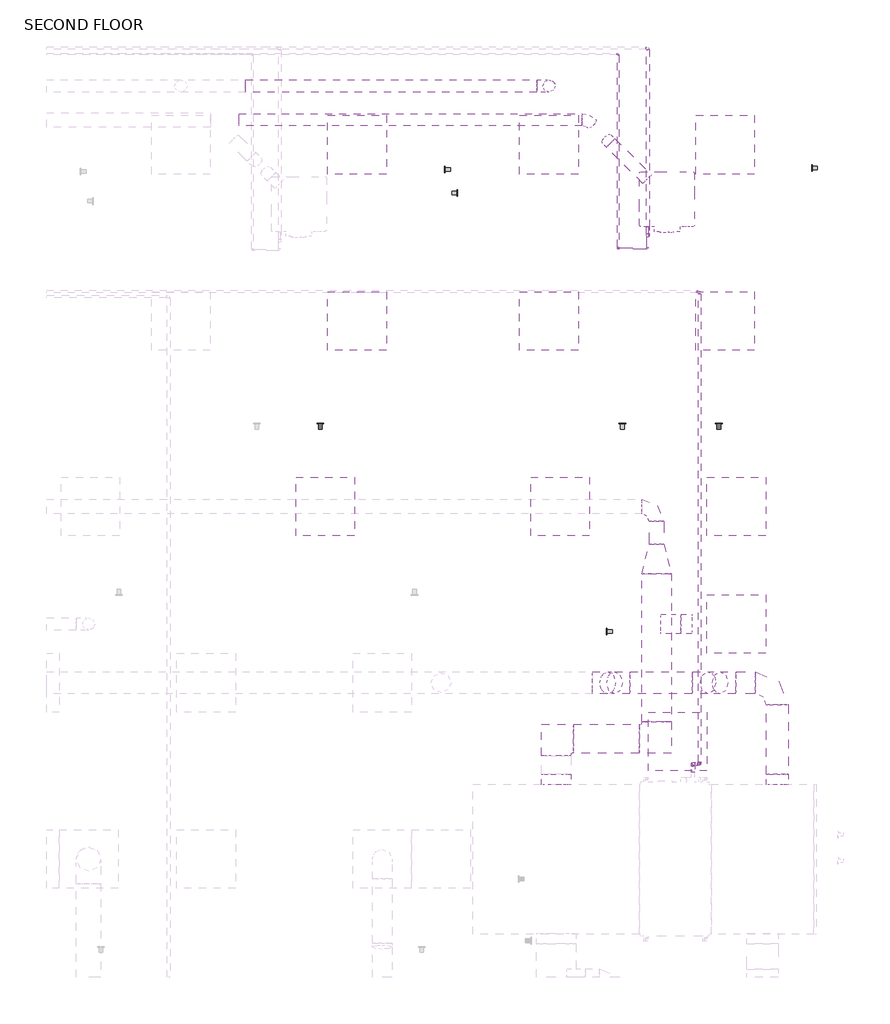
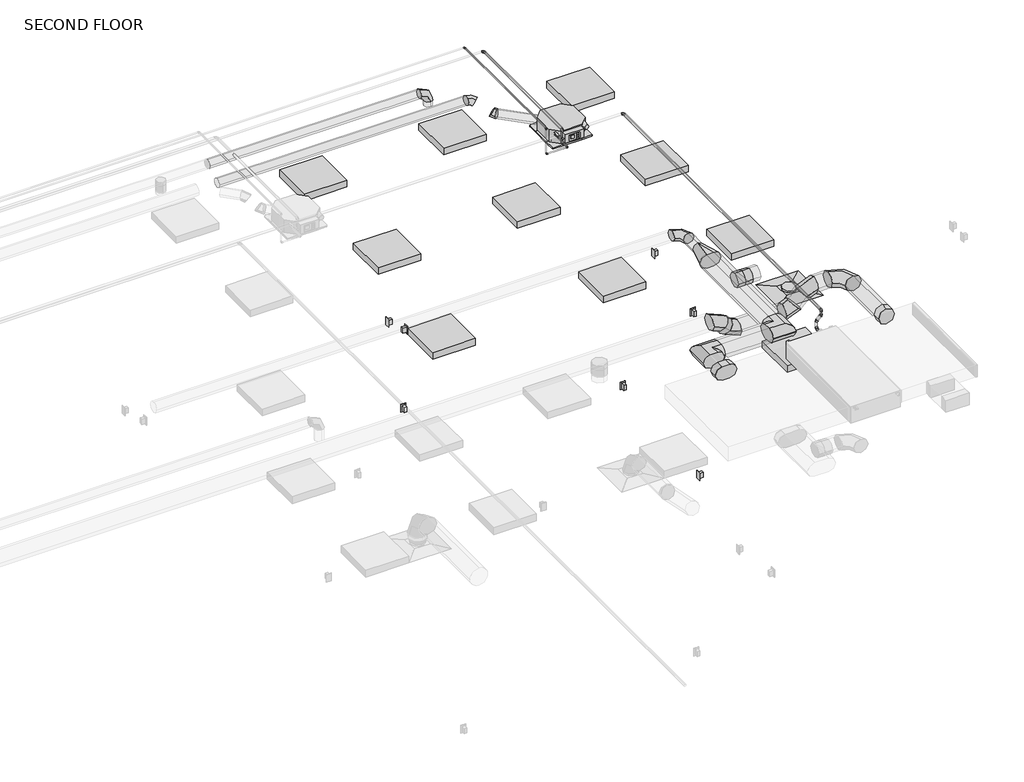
# One storey, part 12 of 12: 15 duct fittings, 13 duct segments, 13 pipe fittings, 11 pipe segments, 10 light fixtures, 6 proxies, 2 switching devices, 1 air terminal.
"""IFC4 building model written with IfcOpenShell, lengths in millimetres."""

from ifc_helpers import new_model, si_unit, point, frame, frame_2d, origin, place, context, project, spatial, polyline, circle_curve, trimmed, segment, composite_curve, outline, extrude, transform, mapped, element, save
from components import air_terminal_e9020785, mechanical_equipment_2d84379e, duplex_receptacle_countertop_10251bba, oval_elbow_mitered_standard_b72006ba, oval_tap_straight_standard_1d19fd39, oval_to_round_transition_length_standard_34fdf921, round_elbow_1_d_df495868, round_elbow_1_d_b37ad80b, round_elbow_1_d_c80420c1, round_elbow_1_d_2e2412f0, round_elbow_1_d_fb0a9a06, round_elbow_1_d_45990e82, round_takeoff_standard_affb11f8, round_takeoff_standard_bde3aeed, troffer_corner_insert_2x2_3lamp_e67c7f8f, elbow_generic_standard_1964ee4a, elbow_generic_standard_a6ae4ebe, elbow_generic_standard_39713109, elbow_generic_standard_c06ac706, elbow_generic_standard_a088f956, transition_generic_standard_64286003

model = new_model("IFC4")

# Units and contexts
model_context = context("Model", 3, world=origin())
ifc_project = project(units=[si_unit("LENGTHUNIT", "METRE", prefix="MILLI")], contexts=[model_context])

# Site, building, storey
site = spatial("IfcSite", under=ifc_project)
building = spatial("IfcBuilding", under=site)
storey = spatial("IfcBuildingStorey", under=building, Name="SECOND FLOOR", Elevation=34544.0)

# Air terminal
placement = place(None, origin())
air_terminal_shape = air_terminal_e9020785(model_context)
element("IfcAirTerminal", 1, ObjectType="Supply Diffuser - Rectangular Face Round Neck - Hosted : 24\"x24\" Face 8\" Neck - Hosted", at=placement, inside=storey, context=model_context, shape_type="MappedRepresentation", body=[
    mapped(air_terminal_shape, transform((12392.9795393, 1686.9195005, 37287.2), x_axis=(-1.0, 0.0, 0.0), y_axis=(0.0, 1.0, 0.0), z_axis=(0.0, 0.0, -1.0))),
])

# Proxies
mechanical_equipment_shape = mechanical_equipment_2d84379e(model_context)
element("IfcBuildingElementProxy", 2, Name="PLFY-P-NCMU-E_4-way_24x24 : PLFY-P12NCMU-E", ObjectType="PLFY-P-NCMU-E_4-way_24x24 : PLFY-P12NCMU-E", at=placement, inside=storey, context=model_context, shape_type="MappedRepresentation", body=[
    mapped(mechanical_equipment_shape, transform((11673.0482893, 6163.5961456, 37287.2), x_axis=(-1.0, 0.0, 0.0), y_axis=(0.0, 1.0, 0.0), z_axis=(0.0, 0.0, -1.0))),
])
duplex_receptacle_countertop_shape = duplex_receptacle_countertop_10251bba(model_context)
element("IfcBuildingElementProxy", 3, Name="Duplex Receptacle : Standard", ObjectType="Duplex Receptacle : Standard", at=placement, inside=storey, context=model_context, shape_type="MappedRepresentation", body=[
    mapped(duplex_receptacle_countertop_shape, transform((9370.3795393, 6403.4699415, 35001.2), x_axis=(0.0, -1.0, 0.0), y_axis=(0.0, 0.0, 1.0), z_axis=(-1.0, 0.0, 0.0))),
])
element("IfcBuildingElementProxy", 4, Name="Duplex Receptacle : Standard", ObjectType="Duplex Receptacle : Standard", at=placement, inside=storey, context=model_context, shape_type="MappedRepresentation", body=[
    mapped(duplex_receptacle_countertop_shape, transform((9494.2045393, 6160.5030669, 35001.2), x_axis=(0.0, 1.0, 0.0), y_axis=(0.0, 0.0, 1.0), z_axis=(1.0, 0.0, 0.0))),
])
element("IfcBuildingElementProxy", 5, Name="Duplex Receptacle : Standard", ObjectType="Duplex Receptacle : Standard", at=placement, inside=storey, context=model_context, shape_type="MappedRepresentation", body=[
    mapped(duplex_receptacle_countertop_shape, transform((13180.3795393, 6418.1544492, 34696.4), x_axis=(0.0, -1.0, 0.0), y_axis=(0.0, 0.0, 1.0), z_axis=(-1.0, 0.0, 0.0))),
])
element("IfcBuildingElementProxy", 6, Name="Duplex Receptacle : Standard", ObjectType="Duplex Receptacle : Standard", at=placement, inside=storey, context=model_context, shape_type="MappedRepresentation", body=[
    mapped(duplex_receptacle_countertop_shape, transform((11210.5552749, 3763.3695005, 35001.2), x_axis=(-1.0, 0.0, 0.0), y_axis=(0.0, 0.0, 1.0), z_axis=(0.0, 1.0, 0.0))),
])
element("IfcBuildingElementProxy", 7, Name="Duplex Receptacle : Standard", ObjectType="Duplex Receptacle : Standard", at=placement, inside=storey, context=model_context, shape_type="MappedRepresentation", body=[
    mapped(duplex_receptacle_countertop_shape, transform((11049.9545393, 1610.8311967, 35001.2), x_axis=(0.0, -1.0, 0.0), y_axis=(0.0, 0.0, 1.0), z_axis=(-1.0, 0.0, 0.0))),
])

# Duct fittings
oval_elbow_mitered_standard_shape = oval_elbow_mitered_standard_b72006ba(model_context)
element("IfcDuctFitting", 8, ObjectType="Oval Elbow - Mitered : Standard", at=placement, inside=storey, context=model_context, shape_type="MappedRepresentation", body=[
    mapped(oval_elbow_mitered_standard_shape, transform((10522.5076643, 496.5607041, 37712.65), x_axis=(-1.0, 0.0, 0.0), y_axis=(0.0, -1.0, 0.0), z_axis=(0.0, 0.0, 1.0))),
])
element("IfcDuctFitting", 9, ObjectType="Oval Elbow - Mitered : Standard", at=placement, inside=storey, context=model_context, shape_type="MappedRepresentation", body=[
    mapped(oval_elbow_mitered_standard_shape, transform((11563.9076643, 496.5607041, 37712.65), x_axis=(1.0, 0.0, 0.0), y_axis=(0.0, 1.0, 0.0), z_axis=(0.0, 0.0, 1.0))),
])
oval_tap_straight_standard_shape = oval_tap_straight_standard_1d19fd39(model_context)
element("IfcDuctFitting", 10, ObjectType="Oval Tap - Straight : Standard", at=placement, inside=storey, context=model_context, shape_type="MappedRepresentation", body=[
    mapped(oval_tap_straight_standard_shape, transform((10522.5076643, 26.3945005, 37712.65), x_axis=(0.0, 1.0, 0.0), y_axis=(1.0, 0.0, 0.0), z_axis=(0.0, 0.0, -1.0))),
])
oval_to_round_transition_length_standard_shape = oval_to_round_transition_length_standard_34fdf921(model_context)
element("IfcDuctFitting", 11, ObjectType="Oval to Round Transition - Length : Standard", at=placement, inside=storey, context=model_context, shape_type="MappedRepresentation", body=[
    mapped(oval_to_round_transition_length_standard_shape, transform((11563.9076643, 2210.7945005, 37712.65), x_axis=(0.0, 1.0, 0.0), y_axis=(-1.0, 0.0, 0.0), z_axis=(0.0, 0.0, 1.0))),
])
round_elbow_1_d_shape = round_elbow_1_d_df495868(model_context)
element("IfcDuctFitting", 12, ObjectType="Round Elbow : 1 D", at=placement, inside=storey, context=model_context, shape_type="MappedRepresentation", body=[
    mapped(round_elbow_1_d_shape, transform((12818.4295393, 1077.3195005, 37751.54375), x_axis=(0.0, 1.0, 0.0), y_axis=(-1.0, 0.0, 0.0), z_axis=(0.0, 0.0, 1.0))),
])
round_elbow_1_d_2_shape = round_elbow_1_d_b37ad80b(model_context)
element("IfcDuctFitting", 13, ObjectType="Round Elbow : 1 D", at=placement, inside=storey, context=model_context, shape_type="MappedRepresentation", body=[
    mapped(round_elbow_1_d_2_shape, transform((11563.9076643, 2906.1195005, 37712.65), x_axis=(0.0, 1.0, 0.0), y_axis=(-1.0, 0.0, 0.0), z_axis=(0.0, 0.0, 1.0))),
])
round_elbow_1_d_3_shape = round_elbow_1_d_c80420c1(model_context)
element("IfcDuctFitting", 14, ObjectType="Round Elbow : 1 D", at=placement, inside=storey, context=model_context, shape_type="MappedRepresentation", body=[
    mapped(round_elbow_1_d_3_shape, transform((10448.2920393, 7268.5695005, 37592.0), x_axis=(0.0, 0.0, 1.0), y_axis=(-1.0, 0.0, 0.0), z_axis=(0.0, -1.0, 0.0))),
])
round_elbow_1_d_4_shape = round_elbow_1_d_2e2412f0(model_context)
element("IfcDuctFitting", 15, ObjectType="Round Elbow : 1 D", at=placement, inside=storey, context=model_context, shape_type="MappedRepresentation", body=[
    mapped(round_elbow_1_d_4_shape, transform((10992.1758808, 1077.3195005, 37693.6), x_axis=(1.0, 0.0, 0.0), y_axis=(0.0, 0.0, -1.0), z_axis=(0.0, 1.0, 0.0))),
])
element("IfcDuctFitting", 16, ObjectType="Round Elbow : 1 D", at=placement, inside=storey, context=model_context, shape_type="MappedRepresentation", body=[
    mapped(round_elbow_1_d_4_shape, transform((11195.3758808, 1077.3195005, 37490.4), x_axis=(0.7071067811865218, 0.0, -0.7071067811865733), y_axis=(0.7071067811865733, 0.0, 0.7071067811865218), z_axis=(0.0, -1.0, 0.0))),
])
element("IfcDuctFitting", 17, ObjectType="Round Elbow : 1 D", at=placement, inside=storey, context=model_context, shape_type="MappedRepresentation", body=[
    mapped(round_elbow_1_d_4_shape, transform((12031.0295393, 1077.3195005, 37490.4), x_axis=(1.0, 0.0, 0.0), y_axis=(0.0, 0.0, 1.0), z_axis=(0.0, -1.0, 0.0))),
])
element("IfcDuctFitting", 18, ObjectType="Round Elbow : 1 D", at=placement, inside=storey, context=model_context, shape_type="MappedRepresentation", body=[
    mapped(round_elbow_1_d_4_shape, transform((12292.1732893, 1077.3195005, 37751.54375), x_axis=(0.7071067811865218, 0.0, 0.7071067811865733), y_axis=(0.7071067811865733, 0.0, -0.7071067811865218), z_axis=(0.0, 1.0, 0.0))),
])
round_elbow_1_d_5_shape = round_elbow_1_d_fb0a9a06(model_context)
element("IfcDuctFitting", 19, ObjectType="Round Elbow : 1 D", at=placement, inside=storey, context=model_context, shape_type="MappedRepresentation", body=[
    mapped(round_elbow_1_d_5_shape, transform((11066.9872394, 6701.0361542, 37381.2593852), x_axis=(-0.7071067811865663, 0.7071067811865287, 0.0), y_axis=(0.0, 0.0, 1.0), z_axis=(0.7071067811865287, 0.7071067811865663, 0.0))),
])
round_elbow_1_d_6_shape = round_elbow_1_d_45990e82(model_context)
element("IfcDuctFitting", 20, ObjectType="Round Elbow : 1 D", at=placement, inside=storey, context=model_context, shape_type="MappedRepresentation", body=[
    mapped(round_elbow_1_d_6_shape, transform((10850.3811724, 6917.6422212, 37541.2), x_axis=(-0.626811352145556, 0.6268113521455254, 0.4628337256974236), y_axis=(-0.7791710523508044, -0.5042441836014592, -0.3723308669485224), z_axis=(0.0, -0.5940078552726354, 0.8044592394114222))),
])
round_takeoff_standard_shape = round_takeoff_standard_affb11f8(model_context)
element("IfcDuctFitting", 21, ObjectType="Round Takeoff : Standard", at=placement, inside=storey, context=model_context, shape_type="MappedRepresentation", body=[
    mapped(round_takeoff_standard_shape, transform((11716.3076643, 1686.9195005, 37712.65), x_axis=(1.0, 0.0, 0.0), y_axis=(0.0, -1.0, 0.0), z_axis=(0.0, 0.0, -1.0))),
])
round_takeoff_standard_2_shape = round_takeoff_standard_bde3aeed(model_context)
element("IfcDuctFitting", 22, ObjectType="Round Takeoff : Standard", at=placement, inside=storey, context=model_context, shape_type="MappedRepresentation", body=[
    mapped(round_takeoff_standard_2_shape, transform((12818.4295393, 26.3945005, 37751.54375), x_axis=(0.0, 1.0, 0.0), y_axis=(1.0, 0.0, 0.0), z_axis=(0.0, 0.0, -1.0))),
])

# Duct segments
element("IfcDuctSegment", 23, ObjectType="Mitered Elbows / Taps", at=placement, inside=storey, context=model_context, shape_type="SweptSolid", body=[
    extrude(outline(composite_curve([segment(polyline([(445.7607041, 37814.25), (547.3607041, 37814.25)]), True, "CONTINUOUS"), segment(trimmed(circle_curve(frame_2d((547.3607041, 37712.65)), 101.6), [point((547.3607041, 37814.25))], [point((648.9607041, 37712.65))], False, "CARTESIAN"), True, "CONTINUOUS"), segment(trimmed(circle_curve(frame_2d((547.3607041, 37712.65)), 101.6), [point((648.9607041, 37712.65))], [point((547.3607041, 37611.05))], False, "CARTESIAN"), True, "CONTINUOUS"), segment(polyline([(547.3607041, 37611.05), (445.7607041, 37611.05)]), True, "CONTINUOUS"), segment(trimmed(circle_curve(frame_2d((445.7607041, 37712.65)), 101.6), [point((445.7607041, 37611.05))], [point((344.1607041, 37712.65))], False, "CARTESIAN"), True, "CONTINUOUS"), segment(trimmed(circle_curve(frame_2d((445.7607041, 37712.65)), 101.6), [point((344.1607041, 37712.65))], [point((445.7607041, 37814.25))], False, "CARTESIAN"), True, "CONTINUOUS")], self_intersect=False)), frame((10700.3076643, 0.0, 0.0), z_axis=(1.0, 0.0, 0.0), x_axis=(0.0, 1.0, 0.0)), (0.0, 0.0, 1.0), 685.8),
])
element("IfcDuctSegment", 24, ObjectType="Mitered Elbows / Taps", at=placement, inside=storey, context=model_context, shape_type="SweptSolid", body=[
    extrude(outline(composite_curve([segment(polyline([(37814.25, 11614.7076643), (37814.25, 11513.1076643)]), True, "CONTINUOUS"), segment(trimmed(circle_curve(frame_2d((37712.65, 11513.1076643)), 101.6), [point((37814.25, 11513.1076643))], [point((37712.65, 11411.5076643))], False, "CARTESIAN"), True, "CONTINUOUS"), segment(trimmed(circle_curve(frame_2d((37712.65, 11513.1076643)), 101.6), [point((37712.65, 11411.5076643))], [point((37611.05, 11513.1076643))], False, "CARTESIAN"), True, "CONTINUOUS"), segment(polyline([(37611.05, 11513.1076643), (37611.05, 11614.7076643)]), True, "CONTINUOUS"), segment(trimmed(circle_curve(frame_2d((37712.65, 11614.7076643)), 101.6), [point((37611.05, 11614.7076643))], [point((37712.65, 11716.3076643))], False, "CARTESIAN"), True, "CONTINUOUS"), segment(trimmed(circle_curve(frame_2d((37712.65, 11614.7076643)), 101.6), [point((37712.65, 11716.3076643))], [point((37814.25, 11614.7076643))], False, "CARTESIAN"), True, "CONTINUOUS")], self_intersect=False)), frame((0.0, 674.3607041, 0.0), z_axis=(0.0, 1.0, 0.0), x_axis=(0.0, 0.0, 1.0)), (0.0, 0.0, 1.0), 1536.4337964),
])
element("IfcDuctSegment", 25, ObjectType="Taps / Short Radius", at=placement, inside=storey, context=model_context, shape_type="SweptSolid", body=[
    extrude(outline(composite_curve([segment(trimmed(circle_curve(frame_2d((37712.65, 11563.9076643)), 76.2), [point((37712.65, 11640.1076643))], [point((37788.85, 11563.9076643))], False, "CARTESIAN"), True, "CONTINUOUS"), segment(trimmed(circle_curve(frame_2d((37712.65, 11563.9076643)), 76.2), [point((37788.85, 11563.9076643))], [point((37712.65, 11487.7076643))], False, "CARTESIAN"), True, "CONTINUOUS"), segment(trimmed(circle_curve(frame_2d((37712.65, 11563.9076643)), 76.2), [point((37712.65, 11487.7076643))], [point((37636.45, 11563.9076643))], False, "CARTESIAN"), True, "CONTINUOUS"), segment(trimmed(circle_curve(frame_2d((37712.65, 11563.9076643)), 76.2), [point((37636.45, 11563.9076643))], [point((37712.65, 11640.1076643))], False, "CARTESIAN"), True, "CONTINUOUS")], self_intersect=False)), frame((0.0, 2515.5945005, 0.0), z_axis=(0.0, 1.0, 0.0), x_axis=(0.0, 0.0, 1.0)), (0.0, 0.0, 1.0), 238.125),
])
element("IfcDuctSegment", 26, ObjectType="Taps / Short Radius", at=placement, inside=storey, context=model_context, shape_type="SweptSolid", body=[
    extrude(outline(composite_curve([segment(trimmed(circle_curve(frame_2d((10448.2920393, 7268.5695005)), 63.5), [point((10448.2920393, 7332.0695005))], [point((10511.7920393, 7268.5695005))], False, "CARTESIAN"), True, "CONTINUOUS"), segment(trimmed(circle_curve(frame_2d((10448.2920393, 7268.5695005)), 63.5), [point((10511.7920393, 7268.5695005))], [point((10448.2920393, 7205.0695005))], False, "CARTESIAN"), True, "CONTINUOUS"), segment(trimmed(circle_curve(frame_2d((10448.2920393, 7268.5695005)), 63.5), [point((10448.2920393, 7205.0695005))], [point((10384.7920393, 7268.5695005))], False, "CARTESIAN"), True, "CONTINUOUS"), segment(trimmed(circle_curve(frame_2d((10448.2920393, 7268.5695005)), 63.5), [point((10384.7920393, 7268.5695005))], [point((10448.2920393, 7332.0695005))], False, "CARTESIAN"), True, "CONTINUOUS")], self_intersect=False)), frame((0.0, 0.0, 37388.8), z_axis=(0.0, 0.0, 1.0), x_axis=(1.0, 0.0, 0.0)), (0.0, 0.0, 1.0), 76.2),
])
element("IfcDuctSegment", 27, ObjectType="Taps / Short Radius", at=placement, inside=storey, context=model_context, shape_type="SweptSolid", body=[
    extrude(outline(composite_curve([segment(trimmed(circle_curve(frame_2d((7268.5695005, 37592.0)), 63.5), [point((7332.0695005, 37592.0))], [point((7268.5695005, 37528.5))], False, "CARTESIAN"), True, "CONTINUOUS"), segment(trimmed(circle_curve(frame_2d((7268.5695005, 37592.0)), 63.5), [point((7268.5695005, 37528.5))], [point((7205.0695005, 37592.0))], False, "CARTESIAN"), True, "CONTINUOUS"), segment(trimmed(circle_curve(frame_2d((7268.5695005, 37592.0)), 63.5), [point((7205.0695005, 37592.0))], [point((7268.5695005, 37655.5))], False, "CARTESIAN"), True, "CONTINUOUS"), segment(trimmed(circle_curve(frame_2d((7268.5695005, 37592.0)), 63.5), [point((7268.5695005, 37655.5))], [point((7332.0695005, 37592.0))], False, "CARTESIAN"), True, "CONTINUOUS")], self_intersect=False)), frame((7298.6920393, 0.0, 0.0), z_axis=(1.0, 0.0, 0.0), x_axis=(0.0, 1.0, 0.0)), (0.0, 0.0, 1.0), 3022.6),
])
element("IfcDuctSegment", 28, ObjectType="Taps / Short Radius", at=placement, inside=storey, context=model_context, shape_type="SweptSolid", body=[
    extrude(outline(composite_curve([segment(trimmed(circle_curve(frame_2d((1077.3195005, 37490.4)), 114.3), [point((963.0195005, 37490.4))], [point((1077.3195005, 37604.7))], False, "CARTESIAN"), True, "CONTINUOUS"), segment(trimmed(circle_curve(frame_2d((1077.3195005, 37490.4)), 114.3), [point((1077.3195005, 37604.7))], [point((1191.6195005, 37490.4))], False, "CARTESIAN"), True, "CONTINUOUS"), segment(trimmed(circle_curve(frame_2d((1077.3195005, 37490.4)), 114.3), [point((1191.6195005, 37490.4))], [point((1077.3195005, 37376.1))], False, "CARTESIAN"), True, "CONTINUOUS"), segment(trimmed(circle_curve(frame_2d((1077.3195005, 37490.4)), 114.3), [point((1077.3195005, 37376.1))], [point((963.0195005, 37490.4))], False, "CARTESIAN"), True, "CONTINUOUS")], self_intersect=False)), frame((11290.0651012, 0.0, 0.0), z_axis=(1.0, 0.0, 0.0), x_axis=(0.0, 1.0, 0.0)), (0.0, 0.0, 1.0), 646.2752178),
])
element("IfcDuctSegment", 29, ObjectType="Taps / Short Radius", at=placement, inside=storey, context=model_context, shape_type="SweptSolid", body=[
    extrude(outline(composite_curve([segment(trimmed(circle_curve(frame_2d((0.0, -114.3)), 114.3), [point((0.0, -228.6))], [point((-114.3, -114.3))], False, "CARTESIAN"), True, "CONTINUOUS"), segment(trimmed(circle_curve(frame_2d((0.0, -114.3)), 114.3), [point((-114.3, -114.3))], [point((0.0, 0.0))], False, "CARTESIAN"), True, "CONTINUOUS"), segment(trimmed(circle_curve(frame_2d((0.0, -114.3)), 114.3), [point((0.0, 0.0))], [point((114.3, -114.3))], False, "CARTESIAN"), True, "CONTINUOUS"), segment(trimmed(circle_curve(frame_2d((0.0, -114.3)), 114.3), [point((114.3, -114.3))], [point((0.0, -228.6))], False, "CARTESIAN"), True, "CONTINUOUS")], self_intersect=False)), frame((11128.420491, 1191.6195005, 37557.3553898), z_axis=(-0.7071067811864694, 0.0, 0.7071067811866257), x_axis=(0.7071067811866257, 0.0, 0.7071067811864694)), (0.0, 0.0, 1.0), 97.9897552),
])
element("IfcDuctSegment", 30, ObjectType="Taps / Short Radius", at=placement, inside=storey, context=model_context, shape_type="SweptSolid", body=[
    extrude(outline(composite_curve([segment(trimmed(circle_curve(frame_2d((1077.3195005, 37751.54375)), 114.3), [point((963.0195005, 37751.54375))], [point((1077.3195005, 37865.84375))], False, "CARTESIAN"), True, "CONTINUOUS"), segment(trimmed(circle_curve(frame_2d((1077.3195005, 37751.54375)), 114.3), [point((1077.3195005, 37865.84375))], [point((1191.6195005, 37751.54375))], False, "CARTESIAN"), True, "CONTINUOUS"), segment(trimmed(circle_curve(frame_2d((1077.3195005, 37751.54375)), 114.3), [point((1191.6195005, 37751.54375))], [point((1077.3195005, 37637.24375))], False, "CARTESIAN"), True, "CONTINUOUS"), segment(trimmed(circle_curve(frame_2d((1077.3195005, 37751.54375)), 114.3), [point((1077.3195005, 37637.24375))], [point((963.0195005, 37751.54375))], False, "CARTESIAN"), True, "CONTINUOUS")], self_intersect=False)), frame((12386.8625097, 0.0, 0.0), z_axis=(1.0, 0.0, 0.0), x_axis=(0.0, 1.0, 0.0)), (0.0, 0.0, 1.0), 202.9670296),
])
element("IfcDuctSegment", 31, ObjectType="Taps / Short Radius", at=placement, inside=storey, context=model_context, shape_type="SweptSolid", body=[
    extrude(outline(composite_curve([segment(trimmed(circle_curve(frame_2d((0.0, 114.3)), 114.3), [point((0.0, 0.0))], [point((-114.3, 114.3))], False, "CARTESIAN"), True, "CONTINUOUS"), segment(trimmed(circle_curve(frame_2d((0.0, 114.3)), 114.3), [point((-114.3, 114.3))], [point((0.0, 228.6))], False, "CARTESIAN"), True, "CONTINUOUS"), segment(trimmed(circle_curve(frame_2d((0.0, 114.3)), 114.3), [point((0.0, 228.6))], [point((114.3, 114.3))], False, "CARTESIAN"), True, "CONTINUOUS"), segment(trimmed(circle_curve(frame_2d((0.0, 114.3)), 114.3), [point((114.3, 114.3))], [point((0.0, 0.0))], False, "CARTESIAN"), True, "CONTINUOUS")], self_intersect=False)), frame((12097.9849291, 963.0195005, 37557.3553898), z_axis=(0.7071067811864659, 0.0, 0.7071067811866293), x_axis=(0.7071067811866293, 0.0, -0.7071067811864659)), (0.0, 0.0, 1.0), 179.9345923),
])
element("IfcDuctSegment", 32, ObjectType="Taps / Short Radius", at=placement, inside=storey, context=model_context, shape_type="SweptSolid", body=[
    extrude(outline(composite_curve([segment(trimmed(circle_curve(frame_2d((37751.54375, 12818.4295393)), 114.3), [point((37751.54375, 12704.1295393))], [point((37637.24375, 12818.4295393))], False, "CARTESIAN"), True, "CONTINUOUS"), segment(trimmed(circle_curve(frame_2d((37751.54375, 12818.4295393)), 114.3), [point((37637.24375, 12818.4295393))], [point((37751.54375, 12932.7295393))], False, "CARTESIAN"), True, "CONTINUOUS"), segment(trimmed(circle_curve(frame_2d((37751.54375, 12818.4295393)), 114.3), [point((37751.54375, 12932.7295393))], [point((37865.84375, 12818.4295393))], False, "CARTESIAN"), True, "CONTINUOUS"), segment(trimmed(circle_curve(frame_2d((37751.54375, 12818.4295393)), 114.3), [point((37865.84375, 12818.4295393))], [point((37751.54375, 12704.1295393))], False, "CARTESIAN"), True, "CONTINUOUS")], self_intersect=False)), frame((0.0, 127.9945005, 0.0), z_axis=(0.0, 1.0, 0.0), x_axis=(0.0, 0.0, 1.0)), (0.0, 0.0, 1.0), 720.725),
])
element("IfcDuctSegment", 33, ObjectType="Taps / Short Radius", at=placement, inside=storey, context=model_context, shape_type="SweptSolid", body=[
    extrude(outline(composite_curve([segment(trimmed(circle_curve(frame_2d((6917.6422212, 37541.2)), 63.5), [point((6854.1422212, 37541.2))], [point((6917.6422212, 37604.7))], False, "CARTESIAN"), True, "CONTINUOUS"), segment(trimmed(circle_curve(frame_2d((6917.6422212, 37541.2)), 63.5), [point((6917.6422212, 37604.7))], [point((6981.1422212, 37541.2))], False, "CARTESIAN"), True, "CONTINUOUS"), segment(trimmed(circle_curve(frame_2d((6917.6422212, 37541.2)), 63.5), [point((6981.1422212, 37541.2))], [point((6917.6422212, 37477.7))], False, "CARTESIAN"), True, "CONTINUOUS"), segment(trimmed(circle_curve(frame_2d((6917.6422212, 37541.2)), 63.5), [point((6917.6422212, 37477.7))], [point((6854.1422212, 37541.2))], False, "CARTESIAN"), True, "CONTINUOUS")], self_intersect=False)), frame((7232.1068186, 0.0, 0.0), z_axis=(1.0, 0.0, 0.0), x_axis=(0.0, 1.0, 0.0)), (0.0, 0.0, 1.0), 3557.4469422),
])
element("IfcDuctSegment", 34, ObjectType="Taps / Short Radius", at=placement, inside=storey, context=model_context, shape_type="SweptSolid", body=[
    extrude(outline(composite_curve([segment(trimmed(circle_curve(frame_2d((0.0, 63.5)), 63.5), [point((63.5, 63.5))], [point((0.0, 0.0))], False, "CARTESIAN"), True, "CONTINUOUS"), segment(trimmed(circle_curve(frame_2d((0.0, 63.5)), 63.5), [point((0.0, 0.0))], [point((-63.5, 63.5))], False, "CARTESIAN"), True, "CONTINUOUS"), segment(trimmed(circle_curve(frame_2d((0.0, 63.5)), 63.5), [point((-63.5, 63.5))], [point((0.0, 127.0))], False, "CARTESIAN"), True, "CONTINUOUS"), segment(trimmed(circle_curve(frame_2d((0.0, 63.5)), 63.5), [point((0.0, 127.0))], [point((63.5, 63.5))], False, "CARTESIAN"), True, "CONTINUOUS")], self_intersect=False)), frame((11466.1519112, 6301.8714823, 37444.7593852), z_axis=(-0.7071067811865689, 0.7071067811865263, 0.0), x_axis=(0.7071067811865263, 0.7071067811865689, 0.0)), (0.0, 0.0, 1.0), 533.3450184),
])
element("IfcDuctSegment", 35, ObjectType="Taps / Short Radius", at=placement, inside=storey, context=model_context, shape_type="SweptSolid", body=[
    extrude(outline(composite_curve([segment(trimmed(circle_curve(frame_2d((1686.9195005, 37712.65)), 101.6), [point((1585.3195005, 37712.65))], [point((1686.9195005, 37814.25))], False, "CARTESIAN"), True, "CONTINUOUS"), segment(trimmed(circle_curve(frame_2d((1686.9195005, 37712.65)), 101.6), [point((1686.9195005, 37814.25))], [point((1788.5195005, 37712.65))], False, "CARTESIAN"), True, "CONTINUOUS"), segment(trimmed(circle_curve(frame_2d((1686.9195005, 37712.65)), 101.6), [point((1788.5195005, 37712.65))], [point((1686.9195005, 37611.05))], False, "CARTESIAN"), True, "CONTINUOUS"), segment(trimmed(circle_curve(frame_2d((1686.9195005, 37712.65)), 101.6), [point((1686.9195005, 37611.05))], [point((1585.3195005, 37712.65))], False, "CARTESIAN"), True, "CONTINUOUS")], self_intersect=False)), frame((11817.9076643, 0.0, 0.0), z_axis=(1.0, 0.0, 0.0), x_axis=(0.0, 1.0, 0.0)), (0.0, 0.0, 1.0), 111.521875),
])

# Light fixtures
troffer_corner_insert_2x2_3lamp_shape = troffer_corner_insert_2x2_3lamp_e67c7f8f(model_context)
element("IfcLightFixture", 36, ObjectType="Troffer Corner Insert : 2x2 3Lamp", at=placement, inside=storey, context=model_context, shape_type="MappedRepresentation", body=[
    mapped(troffer_corner_insert_2x2_3lamp_shape, transform((8455.9795393, 4830.1695005, 34848.8), x_axis=(1.0, 0.0, 0.0), y_axis=(0.0, 1.0, 0.0), z_axis=(0.0, 0.0, 1.0))),
])
element("IfcLightFixture", 37, ObjectType="Troffer Corner Insert : 2x2 3Lamp", at=placement, inside=storey, context=model_context, shape_type="MappedRepresentation", body=[
    mapped(troffer_corner_insert_2x2_3lamp_shape, transform((10448.2920393, 6658.9695005, 34848.8), x_axis=(1.0, 0.0, 0.0), y_axis=(0.0, 1.0, 0.0), z_axis=(0.0, 0.0, 1.0))),
])
element("IfcLightFixture", 38, ObjectType="Troffer Corner Insert : 2x2 3Lamp", at=placement, inside=storey, context=model_context, shape_type="MappedRepresentation", body=[
    mapped(troffer_corner_insert_2x2_3lamp_shape, transform((10448.2920393, 4830.1695005, 34848.8), x_axis=(1.0, 0.0, 0.0), y_axis=(0.0, 1.0, 0.0), z_axis=(0.0, 0.0, 1.0))),
])
element("IfcLightFixture", 39, ObjectType="Troffer Corner Insert : 2x2 3Lamp", at=placement, inside=storey, context=model_context, shape_type="MappedRepresentation", body=[
    mapped(troffer_corner_insert_2x2_3lamp_shape, transform((12277.0920393, 4830.1695005, 34848.8), x_axis=(1.0, 0.0, 0.0), y_axis=(0.0, 1.0, 0.0), z_axis=(0.0, 0.0, 1.0))),
])
element("IfcLightFixture", 40, ObjectType="Troffer Corner Insert : 2x2 3Lamp", at=placement, inside=storey, context=model_context, shape_type="MappedRepresentation", body=[
    mapped(troffer_corner_insert_2x2_3lamp_shape, transform((8125.7795393, 2906.1195005, 34848.8), x_axis=(1.0, 0.0, 0.0), y_axis=(0.0, 1.0, 0.0), z_axis=(0.0, 0.0, 1.0))),
])
element("IfcLightFixture", 41, ObjectType="Troffer Corner Insert : 2x2 3Lamp", at=placement, inside=storey, context=model_context, shape_type="MappedRepresentation", body=[
    mapped(troffer_corner_insert_2x2_3lamp_shape, transform((10564.1795393, 2906.1195005, 34848.8), x_axis=(1.0, 0.0, 0.0), y_axis=(0.0, 1.0, 0.0), z_axis=(0.0, 0.0, 1.0))),
])
element("IfcLightFixture", 42, ObjectType="Troffer Corner Insert : 2x2 3Lamp", at=placement, inside=storey, context=model_context, shape_type="MappedRepresentation", body=[
    mapped(troffer_corner_insert_2x2_3lamp_shape, transform((11783.3795393, 467.7195005, 34848.8), x_axis=(1.0, 0.0, 0.0), y_axis=(0.0, 1.0, 0.0), z_axis=(0.0, 0.0, 1.0))),
])
element("IfcLightFixture", 43, ObjectType="Troffer Corner Insert : 2x2 3Lamp", at=placement, inside=storey, context=model_context, shape_type="MappedRepresentation", body=[
    mapped(troffer_corner_insert_2x2_3lamp_shape, transform((12392.9795393, 2906.1195005, 34848.8), x_axis=(1.0, 0.0, 0.0), y_axis=(0.0, 1.0, 0.0), z_axis=(0.0, 0.0, 1.0))),
])
element("IfcLightFixture", 44, ObjectType="Troffer Corner Insert : 2x2 3Lamp", at=placement, inside=storey, context=model_context, shape_type="MappedRepresentation", body=[
    mapped(troffer_corner_insert_2x2_3lamp_shape, transform((12277.0920393, 6658.9695005, 34848.8), x_axis=(1.0, 0.0, 0.0), y_axis=(0.0, 1.0, 0.0), z_axis=(0.0, 0.0, 1.0))),
])
element("IfcLightFixture", 45, ObjectType="Troffer Corner Insert : 2x2 3Lamp", at=placement, inside=storey, context=model_context, shape_type="MappedRepresentation", body=[
    mapped(troffer_corner_insert_2x2_3lamp_shape, transform((8455.9795393, 6658.9695005, 34848.8), x_axis=(1.0, 0.0, 0.0), y_axis=(0.0, 1.0, 0.0), z_axis=(0.0, 0.0, 1.0))),
])

# Pipe fittings
elbow_generic_standard_shape = elbow_generic_standard_1964ee4a(model_context)
element("IfcPipeFitting", 46, ObjectType="Elbow - Generic : Standard", at=placement, inside=storey, context=model_context, shape_type="MappedRepresentation", body=[
    mapped(elbow_generic_standard_shape, transform((12011.1857893, 235.9784128, 37928.5500102), x_axis=(0.0, 0.0, -1.0), y_axis=(-1.0, 0.0, 0.0), z_axis=(0.0, 1.0, 0.0))),
])
elbow_generic_standard_2_shape = elbow_generic_standard_a6ae4ebe(model_context)
element("IfcPipeFitting", 47, ObjectType="Elbow - Generic : Standard", at=placement, inside=storey, context=model_context, shape_type="MappedRepresentation", body=[
    mapped(elbow_generic_standard_2_shape, transform((11942.9232893, 235.9784128, 37738.05), x_axis=(0.0, 1.0, 0.0), y_axis=(0.0, 0.0, 1.0), z_axis=(1.0, 0.0, 0.0))),
])
elbow_generic_standard_3_shape = elbow_generic_standard_39713109(model_context)
element("IfcPipeFitting", 48, ObjectType="Elbow - Generic : Standard", at=placement, inside=storey, context=model_context, shape_type="MappedRepresentation", body=[
    mapped(elbow_generic_standard_3_shape, transform((11942.9232893, 235.9784128, 37860.2875102), x_axis=(-0.707106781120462, 0.0, -0.7071067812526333), y_axis=(0.7071067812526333, 0.0, -0.707106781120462), z_axis=(0.0, -1.0, 0.0))),
])
elbow_generic_standard_4_shape = elbow_generic_standard_c06ac706(model_context)
element("IfcPipeFitting", 49, ObjectType="Elbow - Generic : Standard", at=placement, inside=storey, context=model_context, shape_type="MappedRepresentation", body=[
    mapped(elbow_generic_standard_4_shape, transform((11474.6107893, 7663.8570005, 37592.0), x_axis=(0.0, 1.0, 0.0), y_axis=(-1.0, 0.0, 0.0), z_axis=(0.0, 0.0, 1.0))),
])
element("IfcPipeFitting", 50, ObjectType="Elbow - Generic : Standard", at=placement, inside=storey, context=model_context, shape_type="MappedRepresentation", body=[
    mapped(elbow_generic_standard_4_shape, transform((11474.6107893, 5713.2325116, 37592.0), x_axis=(0.0, 0.0, 1.0), y_axis=(0.0, 1.0, 0.0), z_axis=(-1.0, 0.0, 0.0))),
])
element("IfcPipeFitting", 51, ObjectType="Elbow - Generic : Standard", at=placement, inside=storey, context=model_context, shape_type="MappedRepresentation", body=[
    mapped(elbow_generic_standard_4_shape, transform((12011.1857893, 5135.6701311, 37998.4), x_axis=(0.0, 1.0, 0.0), y_axis=(-1.0, 0.0, 0.0), z_axis=(0.0, 0.0, 1.0))),
])
element("IfcPipeFitting", 52, ObjectType="Elbow - Generic : Standard", at=placement, inside=storey, context=model_context, shape_type="MappedRepresentation", body=[
    mapped(elbow_generic_standard_4_shape, transform((11474.6107893, 5713.2325116, 37437.2187602), x_axis=(0.0, 0.0, -1.0), y_axis=(0.0, 1.0, 0.0), z_axis=(1.0, 0.0, 0.0))),
])
element("IfcPipeFitting", 53, ObjectType="Elbow - Generic : Standard", at=placement, inside=storey, context=model_context, shape_type="MappedRepresentation", body=[
    mapped(elbow_generic_standard_4_shape, transform((12011.1857893, 235.9784128, 37998.4), x_axis=(0.0, -1.0, 0.0), y_axis=(0.0, 0.0, -1.0), z_axis=(1.0, 0.0, 0.0))),
])
elbow_generic_standard_5_shape = elbow_generic_standard_a088f956(model_context)
element("IfcPipeFitting", 54, ObjectType="Elbow - Generic : Standard", at=placement, inside=storey, context=model_context, shape_type="MappedRepresentation", body=[
    mapped(elbow_generic_standard_5_shape, transform((11471.4357893, 5581.0570005, 37407.8499971), x_axis=(1.0, 0.0, 0.0), y_axis=(0.0, 0.9999999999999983, 5.759420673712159e-08), z_axis=(0.0, -5.759420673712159e-08, 0.9999999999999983))),
])
element("IfcPipeFitting", 55, ObjectType="Elbow - Generic : Standard", at=placement, inside=storey, context=model_context, shape_type="MappedRepresentation", body=[
    mapped(elbow_generic_standard_5_shape, transform((11166.6357893, 5581.0570005, 37407.8499971), x_axis=(-1.0, 0.0, 0.0), y_axis=(0.0, 0.0, 1.0), z_axis=(0.0, 1.0, 0.0))),
])
element("IfcPipeFitting", 56, ObjectType="Elbow - Generic : Standard", at=placement, inside=storey, context=model_context, shape_type="MappedRepresentation", body=[
    mapped(elbow_generic_standard_5_shape, transform((11166.6357893, 5581.0570005, 37795.2), x_axis=(0.0, 0.0, 1.0), y_axis=(0.0, 1.0, 0.0), z_axis=(-1.0, 0.0, 0.0))),
])
element("IfcPipeFitting", 57, ObjectType="Elbow - Generic : Standard", at=placement, inside=storey, context=model_context, shape_type="MappedRepresentation", body=[
    mapped(elbow_generic_standard_5_shape, transform((11166.6357893, 7600.3570005, 37795.2), x_axis=(0.0, 1.0, 0.0), y_axis=(-1.0, 0.0, 0.0), z_axis=(0.0, 0.0, 1.0))),
])
transition_generic_standard_shape = transition_generic_standard_64286003(model_context)
element("IfcPipeFitting", 58, ObjectType="Transition - Generic : Standard", at=placement, inside=storey, context=model_context, shape_type="MappedRepresentation", body=[
    mapped(transition_generic_standard_shape, transform((12005.1412055, 235.9784128, 37922.5054264), x_axis=(-0.7071067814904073, 0.0, -0.707106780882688), y_axis=(0.0, -1.0000000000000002, 0.0), z_axis=(-0.707106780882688, 0.0, 0.7071067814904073))),
])

# Pipe segments
element("IfcPipeSegment", 59, ObjectType="Copper Tubing", at=placement, inside=storey, context=model_context, shape_type="SweptSolid", body=[
    extrude(outline(composite_curve([segment(trimmed(circle_curve(frame_2d((37592.0, 11474.6107893)), 14.2875), [point((37592.0, 11488.8982893))], [point((37606.2875, 11474.6107893))], False, "CARTESIAN"), True, "CONTINUOUS"), segment(trimmed(circle_curve(frame_2d((37592.0, 11474.6107893)), 14.2875), [point((37606.2875, 11474.6107893))], [point((37592.0, 11460.3232893))], False, "CARTESIAN"), True, "CONTINUOUS"), segment(trimmed(circle_curve(frame_2d((37592.0, 11474.6107893)), 14.2875), [point((37592.0, 11460.3232893))], [point((37577.7125, 11474.6107893))], False, "CARTESIAN"), True, "CONTINUOUS"), segment(trimmed(circle_curve(frame_2d((37592.0, 11474.6107893)), 14.2875), [point((37577.7125, 11474.6107893))], [point((37592.0, 11488.8982893))], False, "CARTESIAN"), True, "CONTINUOUS")], self_intersect=False)), frame((0.0, 5733.8700116, 0.0), z_axis=(0.0, 1.0, 0.0), x_axis=(0.0, 0.0, 1.0)), (0.0, 0.0, 1.0), 1909.3494889),
])
element("IfcPipeSegment", 60, ObjectType="Copper Tubing", at=placement, inside=storey, context=model_context, shape_type="SweptSolid", body=[
    extrude(outline(composite_curve([segment(trimmed(circle_curve(frame_2d((37998.4, 12011.1857893)), 14.2875), [point((37998.4, 12025.4732893))], [point((38012.6875, 12011.1857893))], False, "CARTESIAN"), True, "CONTINUOUS"), segment(trimmed(circle_curve(frame_2d((37998.4, 12011.1857893)), 14.2875), [point((38012.6875, 12011.1857893))], [point((37998.4, 11996.8982893))], False, "CARTESIAN"), True, "CONTINUOUS"), segment(trimmed(circle_curve(frame_2d((37998.4, 12011.1857893)), 14.2875), [point((37998.4, 11996.8982893))], [point((37984.1125, 12011.1857893))], False, "CARTESIAN"), True, "CONTINUOUS"), segment(trimmed(circle_curve(frame_2d((37998.4, 12011.1857893)), 14.2875), [point((37984.1125, 12011.1857893))], [point((37998.4, 12025.4732893))], False, "CARTESIAN"), True, "CONTINUOUS")], self_intersect=False)), frame((0.0, 256.6159128, 0.0), z_axis=(0.0, 1.0, 0.0), x_axis=(0.0, 0.0, 1.0)), (0.0, 0.0, 1.0), 4858.4167183),
])
element("IfcPipeSegment", 61, ObjectType="Copper Tubing", at=placement, inside=storey, context=model_context, shape_type="SweptSolid", body=[
    extrude(outline(composite_curve([segment(trimmed(circle_curve(frame_2d((37407.8500102, 11471.4357893)), 7.9375), [point((37407.8500102, 11463.4982893))], [point((37399.9125102, 11471.4357893))], False, "CARTESIAN"), True, "CONTINUOUS"), segment(trimmed(circle_curve(frame_2d((37407.8500102, 11471.4357893)), 7.9375), [point((37399.9125102, 11471.4357893))], [point((37407.8500102, 11479.3732893))], False, "CARTESIAN"), True, "CONTINUOUS"), segment(trimmed(circle_curve(frame_2d((37407.8500102, 11471.4357893)), 7.9375), [point((37407.8500102, 11479.3732893))], [point((37415.7875102, 11471.4357893))], False, "CARTESIAN"), True, "CONTINUOUS"), segment(trimmed(circle_curve(frame_2d((37407.8500102, 11471.4357893)), 7.9375), [point((37415.7875102, 11471.4357893))], [point((37407.8500102, 11463.4982893))], False, "CARTESIAN"), True, "CONTINUOUS")], self_intersect=False)), frame((0.0, 5595.3445005, 0.0), z_axis=(0.0, 1.0, 0.0), x_axis=(0.0, 0.0, 1.0)), (0.0, 0.0, 1.0), 214.6743538),
])
element("IfcPipeSegment", 62, ObjectType="Copper Tubing", at=placement, inside=storey, context=model_context, shape_type="SweptSolid", body=[
    extrude(outline(composite_curve([segment(trimmed(circle_curve(frame_2d((5581.0570005, 37407.8499971)), 7.9375), [point((5588.9945005, 37407.8499971))], [point((5581.0570005, 37399.9124971))], False, "CARTESIAN"), True, "CONTINUOUS"), segment(trimmed(circle_curve(frame_2d((5581.0570005, 37407.8499971)), 7.9375), [point((5581.0570005, 37399.9124971))], [point((5573.1195005, 37407.8499971))], False, "CARTESIAN"), True, "CONTINUOUS"), segment(trimmed(circle_curve(frame_2d((5581.0570005, 37407.8499971)), 7.9375), [point((5573.1195005, 37407.8499971))], [point((5581.0570005, 37415.7874971))], False, "CARTESIAN"), True, "CONTINUOUS"), segment(trimmed(circle_curve(frame_2d((5581.0570005, 37407.8499971)), 7.9375), [point((5581.0570005, 37415.7874971))], [point((5588.9945005, 37407.8499971))], False, "CARTESIAN"), True, "CONTINUOUS")], self_intersect=False)), frame((11180.9232893, 0.0, 0.0), z_axis=(1.0, 0.0, 0.0), x_axis=(0.0, 1.0, 0.0)), (0.0, 0.0, 1.0), 276.225),
])
element("IfcPipeSegment", 63, ObjectType="Copper Tubing", at=placement, inside=storey, context=model_context, shape_type="SweptSolid", body=[
    extrude(outline(composite_curve([segment(trimmed(circle_curve(frame_2d((37795.2, 11166.6357893)), 7.9375), [point((37795.2, 11174.5732893))], [point((37803.1375, 11166.6357893))], False, "CARTESIAN"), True, "CONTINUOUS"), segment(trimmed(circle_curve(frame_2d((37795.2, 11166.6357893)), 7.9375), [point((37803.1375, 11166.6357893))], [point((37795.2, 11158.6982893))], False, "CARTESIAN"), True, "CONTINUOUS"), segment(trimmed(circle_curve(frame_2d((37795.2, 11166.6357893)), 7.9375), [point((37795.2, 11158.6982893))], [point((37787.2625, 11166.6357893))], False, "CARTESIAN"), True, "CONTINUOUS"), segment(trimmed(circle_curve(frame_2d((37795.2, 11166.6357893)), 7.9375), [point((37787.2625, 11166.6357893))], [point((37795.2, 11174.5732893))], False, "CARTESIAN"), True, "CONTINUOUS")], self_intersect=False)), frame((0.0, 5595.3445005, 0.0), z_axis=(0.0, 1.0, 0.0), x_axis=(0.0, 0.0, 1.0)), (0.0, 0.0, 1.0), 1990.725),
])
element("IfcPipeSegment", 64, ObjectType="Copper Tubing", at=placement, inside=storey, context=model_context, shape_type="SweptSolid", body=[
    extrude(outline(composite_curve([segment(trimmed(circle_curve(frame_2d((11166.6357893, 5581.0570005)), 7.9375), [point((11158.6982893, 5581.0570005))], [point((11166.6357893, 5588.9945005))], False, "CARTESIAN"), True, "CONTINUOUS"), segment(trimmed(circle_curve(frame_2d((11166.6357893, 5581.0570005)), 7.9375), [point((11166.6357893, 5588.9945005))], [point((11174.5732893, 5581.0570005))], False, "CARTESIAN"), True, "CONTINUOUS"), segment(trimmed(circle_curve(frame_2d((11166.6357893, 5581.0570005)), 7.9375), [point((11174.5732893, 5581.0570005))], [point((11166.6357893, 5573.1195005))], False, "CARTESIAN"), True, "CONTINUOUS"), segment(trimmed(circle_curve(frame_2d((11166.6357893, 5581.0570005)), 7.9375), [point((11166.6357893, 5573.1195005))], [point((11158.6982893, 5581.0570005))], False, "CARTESIAN"), True, "CONTINUOUS")], self_intersect=False)), frame((0.0, 0.0, 37422.1374971), z_axis=(0.0, 0.0, 1.0), x_axis=(1.0, 0.0, 0.0)), (0.0, 0.0, 1.0), 358.7750029),
])
element("IfcPipeSegment", 65, ObjectType="Copper Tubing", at=placement, inside=storey, context=model_context, shape_type="SweptSolid", body=[
    extrude(outline(composite_curve([segment(trimmed(circle_curve(frame_2d((37437.2187602, 11474.6107893)), 14.2875), [point((37437.2187602, 11460.3232893))], [point((37422.9312602, 11474.6107893))], False, "CARTESIAN"), True, "CONTINUOUS"), segment(trimmed(circle_curve(frame_2d((37437.2187602, 11474.6107893)), 14.2875), [point((37422.9312602, 11474.6107893))], [point((37437.2187602, 11488.8982893))], False, "CARTESIAN"), True, "CONTINUOUS"), segment(trimmed(circle_curve(frame_2d((37437.2187602, 11474.6107893)), 14.2875), [point((37437.2187602, 11488.8982893))], [point((37451.5062602, 11474.6107893))], False, "CARTESIAN"), True, "CONTINUOUS"), segment(trimmed(circle_curve(frame_2d((37437.2187602, 11474.6107893)), 14.2875), [point((37451.5062602, 11474.6107893))], [point((37437.2187602, 11460.3232893))], False, "CARTESIAN"), True, "CONTINUOUS")], self_intersect=False)), frame((0.0, 5733.8700116, 0.0), z_axis=(0.0, 1.0, 0.0), x_axis=(0.0, 0.0, 1.0)), (0.0, 0.0, 1.0), 76.1488427),
])
element("IfcPipeSegment", 66, ObjectType="Copper Tubing", at=placement, inside=storey, context=model_context, shape_type="SweptSolid", body=[
    extrude(outline(composite_curve([segment(trimmed(circle_curve(frame_2d((37738.05, 11942.9232893)), 17.4625), [point((37738.05, 11960.3857893))], [point((37755.5125, 11942.9232893))], False, "CARTESIAN"), True, "CONTINUOUS"), segment(trimmed(circle_curve(frame_2d((37738.05, 11942.9232893)), 17.4625), [point((37755.5125, 11942.9232893))], [point((37738.05, 11925.4607893))], False, "CARTESIAN"), True, "CONTINUOUS"), segment(trimmed(circle_curve(frame_2d((37738.05, 11942.9232893)), 17.4625), [point((37738.05, 11925.4607893))], [point((37720.5875, 11942.9232893))], False, "CARTESIAN"), True, "CONTINUOUS"), segment(trimmed(circle_curve(frame_2d((37738.05, 11942.9232893)), 17.4625), [point((37720.5875, 11942.9232893))], [point((37738.05, 11960.3857893))], False, "CARTESIAN"), True, "CONTINUOUS")], self_intersect=False)), frame((0.0, 148.6320005, 0.0), z_axis=(0.0, 1.0, 0.0), x_axis=(0.0, 0.0, 1.0)), (0.0, 0.0, 1.0), 63.5339123),
])
element("IfcPipeSegment", 67, ObjectType="Copper Tubing", at=placement, inside=storey, context=model_context, shape_type="SweptSolid", body=[
    extrude(outline(composite_curve([segment(trimmed(circle_curve(frame_2d((11942.9232893, 235.9784128)), 17.4625), [point((11960.3857893, 235.9784128))], [point((11942.9232893, 218.5159128))], False, "CARTESIAN"), True, "CONTINUOUS"), segment(trimmed(circle_curve(frame_2d((11942.9232893, 235.9784128)), 17.4625), [point((11942.9232893, 218.5159128))], [point((11925.4607893, 235.9784128))], False, "CARTESIAN"), True, "CONTINUOUS"), segment(trimmed(circle_curve(frame_2d((11942.9232893, 235.9784128)), 17.4625), [point((11925.4607893, 235.9784128))], [point((11942.9232893, 253.4409128))], False, "CARTESIAN"), True, "CONTINUOUS"), segment(trimmed(circle_curve(frame_2d((11942.9232893, 235.9784128)), 17.4625), [point((11942.9232893, 253.4409128))], [point((11960.3857893, 235.9784128))], False, "CARTESIAN"), True, "CONTINUOUS")], self_intersect=False)), frame((0.0, 0.0, 37761.8625), z_axis=(0.0, 0.0, 1.0), x_axis=(1.0, 0.0, 0.0)), (0.0, 0.0, 1.0), 88.5615497),
])
element("IfcPipeSegment", 68, ObjectType="Copper Tubing", at=placement, inside=storey, context=model_context, shape_type="SweptSolid", body=[
    extrude(outline(composite_curve([segment(trimmed(circle_curve(frame_2d((12011.1857893, 235.9784128)), 14.2875), [point((12025.4732893, 235.9784128))], [point((12011.1857893, 221.6909128))], False, "CARTESIAN"), True, "CONTINUOUS"), segment(trimmed(circle_curve(frame_2d((12011.1857893, 235.9784128)), 14.2875), [point((12011.1857893, 221.6909128))], [point((11996.8982893, 235.9784128))], False, "CARTESIAN"), True, "CONTINUOUS"), segment(trimmed(circle_curve(frame_2d((12011.1857893, 235.9784128)), 14.2875), [point((11996.8982893, 235.9784128))], [point((12011.1857893, 250.2659128))], False, "CARTESIAN"), True, "CONTINUOUS"), segment(trimmed(circle_curve(frame_2d((12011.1857893, 235.9784128)), 14.2875), [point((12011.1857893, 250.2659128))], [point((12025.4732893, 235.9784128))], False, "CARTESIAN"), True, "CONTINUOUS")], self_intersect=False)), frame((0.0, 0.0, 37937.0983426), z_axis=(0.0, 0.0, 1.0), x_axis=(1.0, 0.0, 0.0)), (0.0, 0.0, 1.0), 40.6641574),
])
element("IfcPipeSegment", 69, ObjectType="Copper Tubing", at=placement, inside=storey, context=model_context, shape_type="SweptSolid", body=[
    extrude(outline(composite_curve([segment(trimmed(circle_curve(frame_2d((0.0, -17.4625)), 17.4625), [point((0.0, 0.0))], [point((17.4624999, -17.4625))], False, "CARTESIAN"), True, "CONTINUOUS"), segment(trimmed(circle_curve(frame_2d((0.0, -17.4625)), 17.4625), [point((17.4624999, -17.4625))], [point((0.0, -34.925))], False, "CARTESIAN"), True, "CONTINUOUS"), segment(trimmed(circle_curve(frame_2d((0.0, -17.4625)), 17.4625), [point((0.0, -34.925))], [point((-17.4625, -17.4625))], False, "CARTESIAN"), True, "CONTINUOUS"), segment(trimmed(circle_curve(frame_2d((0.0, -17.4625)), 17.4625), [point((-17.4625, -17.4625))], [point((0.0, 0.0))], False, "CARTESIAN"), True, "CONTINUOUS")], self_intersect=False)), frame((11949.8978091, 253.4409128, 37867.2620299), z_axis=(0.707106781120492, 0.0, 0.7071067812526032), x_axis=(0.7071067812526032, 0.0, -0.707106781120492)), (0.0, 0.0, 1.0), 69.3947104),
])

# Switching devices
element("IfcSwitchingDevice", 70, ObjectType="Lighting Switches : Single Pole", at=placement, inside=storey, context=model_context, shape_type="MappedRepresentation", body=[
    mapped(duplex_receptacle_countertop_shape, transform((8073.8252178, 3763.3695005, 35763.2), x_axis=(-1.0, 0.0, 0.0), y_axis=(0.0, 0.0, 1.0), z_axis=(0.0, 1.0, 0.0))),
])
element("IfcSwitchingDevice", 71, ObjectType="Lighting Switches : Single Pole", at=placement, inside=storey, context=model_context, shape_type="MappedRepresentation", body=[
    mapped(duplex_receptacle_countertop_shape, transform((12211.4015088, 3763.3695005, 35763.2), x_axis=(-1.0, 0.0, 0.0), y_axis=(0.0, 0.0, 1.0), z_axis=(0.0, 1.0, 0.0))),
])

save(model, "model.ifc")
